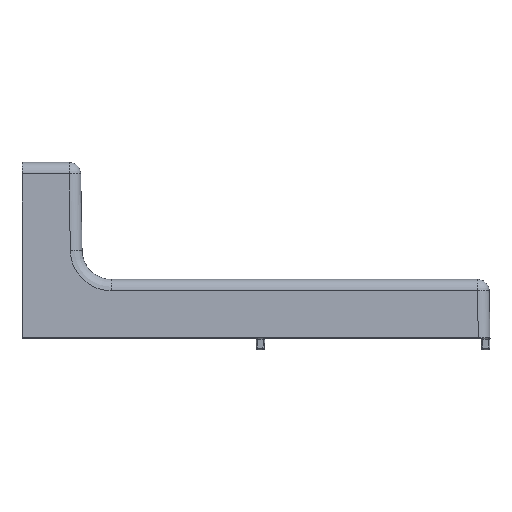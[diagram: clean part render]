
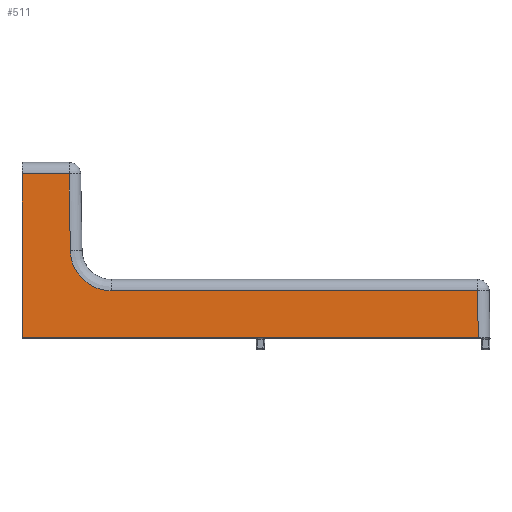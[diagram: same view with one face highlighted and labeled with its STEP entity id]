
A CAD part, top view. The second image highlights one B-rep face of the part: STEP entity #511.
In plain terms, the highlighted planar face has unit normal (0, 0.018, 1).
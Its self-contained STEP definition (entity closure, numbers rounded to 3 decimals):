
#511=ADVANCED_FACE('NONE',(#1434),#1435,.T.);
#1434=FACE_OUTER_BOUND('',#2860,.T.);
#1435=PLANE('',#2861);
#2860=EDGE_LOOP('',(#6760,#6761,#6762,#6763,#6764,#6765,#6766));
#2861=AXIS2_PLACEMENT_3D('',#6767,#6768,#6769);
#6760=ORIENTED_EDGE('',*,*,#10148,.T.);
#6761=ORIENTED_EDGE('',*,*,#10149,.T.);
#6762=ORIENTED_EDGE('',*,*,#10135,.T.);
#6763=ORIENTED_EDGE('',*,*,#9960,.T.);
#6764=ORIENTED_EDGE('',*,*,#10150,.T.);
#6765=ORIENTED_EDGE('',*,*,#10151,.T.);
#6766=ORIENTED_EDGE('',*,*,#10152,.T.);
#6767=CARTESIAN_POINT('',(160.0,0.,19.0));
#6768=DIRECTION('',(0.,0.017,1.));
#6769=DIRECTION('',(1.0,0.,0.0));
#9960=EDGE_CURVE('NONE',#11465,#11463,#11466,.T.);
#10135=EDGE_CURVE('NONE',#11790,#11465,#11791,.T.);
#10148=EDGE_CURVE('NONE',#11811,#11812,#11813,.T.);
#10149=EDGE_CURVE('NONE',#11812,#11790,#11814,.T.);
#10150=EDGE_CURVE('NONE',#11463,#11815,#11816,.T.);
#10151=EDGE_CURVE('NONE',#11815,#11817,#11818,.T.);
#10152=EDGE_CURVE('NONE',#11817,#11811,#11819,.T.);
#11463=VERTEX_POINT('NONE',#13750);
#11465=VERTEX_POINT('NONE',#13762);
#11466=LINE('',#13763,#13764);
#11790=VERTEX_POINT('NONE',#14722);
#11791=LINE('',#14723,#14724);
#11811=VERTEX_POINT('NONE',#14751);
#11812=VERTEX_POINT('NONE',#14752);
#11813=LINE('',#14753,#14754);
#11814=LINE('',#14755,#14756);
#11815=VERTEX_POINT('NONE',#14757);
#11816=LINE('',#14758,#14759);
#11817=VERTEX_POINT('NONE',#14760);
#11818=LINE('',#14761,#14762);
#11819=(B_SPLINE_CURVE(3,(#14764,#14765,#14766,#14767),.UNSPECIFIED.,.F.,.F.)B_SPLINE_CURVE_WITH_KNOTS((4,4),(3.142,4.695),.UNSPECIFIED.)RATIONAL_B_SPLINE_CURVE((1.0,0.809,0.809,1.0))BOUNDED_CURVE()REPRESENTATION_ITEM('')GEOMETRIC_REPRESENTATION_ITEM()CURVE());
#13750=CARTESIAN_POINT('',(156.001,0.,19.0));
#13762=CARTESIAN_POINT('',(0.0,0.0,19.0));
#13763=CARTESIAN_POINT('',(160.0,0.,19.0));
#13764=VECTOR('',#17924,1000.0);
#14722=CARTESIAN_POINT('',(0.0,56.07,18.021));
#14723=CARTESIAN_POINT('',(0.0,0.,19.0));
#14724=VECTOR('',#18069,1000.0);
#14751=CARTESIAN_POINT('',(16.527,29.825,18.479));
#14752=CARTESIAN_POINT('',(16.069,56.07,18.021));
#14753=CARTESIAN_POINT('',(17.091,-2.494,19.044));
#14754=VECTOR('',#18089,1000.0);
#14755=CARTESIAN_POINT('',(160.0,56.07,18.021));
#14756=VECTOR('',#18090,1000.0);
#14757=CARTESIAN_POINT('',(155.72,16.07,18.72));
#14758=CARTESIAN_POINT('',(156.002,-0.07,19.001));
#14759=VECTOR('',#18091,1000.0);
#14760=CARTESIAN_POINT('',(30.525,16.07,18.72));
#14761=CARTESIAN_POINT('',(160.0,16.07,18.72));
#14762=VECTOR('',#18092,1000.0);
#14764=CARTESIAN_POINT('',(30.525,16.07,18.72));
#14765=CARTESIAN_POINT('',(22.437,16.07,18.72));
#14766=CARTESIAN_POINT('',(16.668,21.739,18.621));
#14767=CARTESIAN_POINT('',(16.527,29.825,18.479));
#17924=DIRECTION('',(1.0,0.,-0.0));
#18069=DIRECTION('',(-0.0,-1.,0.017));
#18089=DIRECTION('',(-0.017,1.,-0.017));
#18090=DIRECTION('',(-1.0,0.,0.));
#18091=DIRECTION('',(-0.017,1.,-0.017));
#18092=DIRECTION('',(-1.0,0.,0.));
